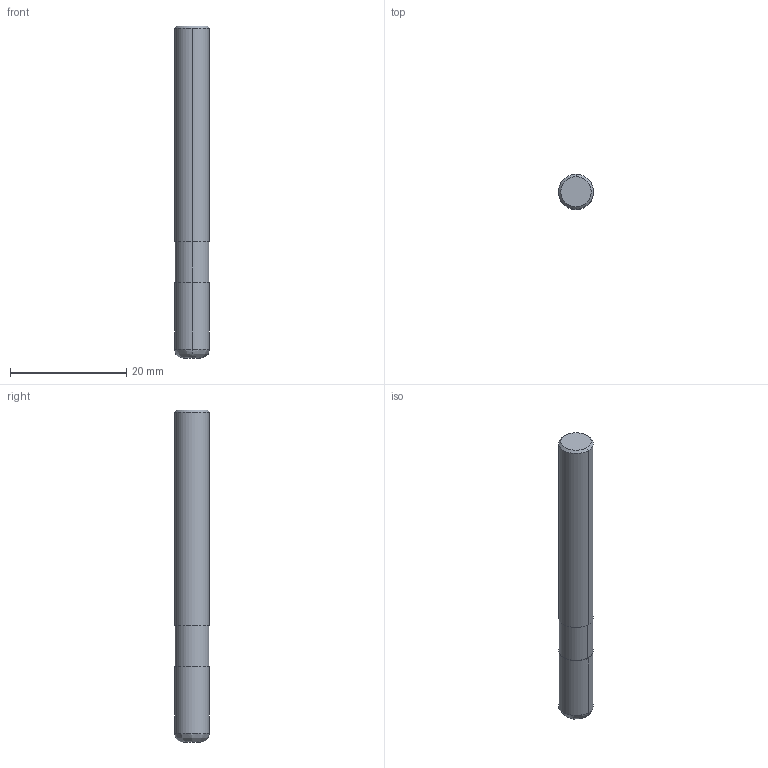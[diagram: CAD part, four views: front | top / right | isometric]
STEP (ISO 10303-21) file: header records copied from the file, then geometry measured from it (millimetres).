
FILE_DESCRIPTION((''),'2;1');
FILE_NAME('DIN4003_82_HEURO','2019-04-10T15:57:27',('automd'),(''),'CREO PARAMETRIC BY PTC INC, 2018400','CREO PARAMETRIC BY PTC INC, 2018400','');
FILE_SCHEMA(('AUTOMOTIVE_DESIGN { 1 0 10303 214 1 1 1 1 }'));
Length unit declared in the file: millimetre
Products named in the file (1): DIN4003_82_HEURO
Bounding box: 6 x 6 x 57 mm (x, y, z)
Volume: 1589.1 mm3; surface area: 1112.5 mm2
Topology: 1 solids, 1 shells, 14 faces, 29 edges, 20 vertices
Faces by surface type: bspline 14
Entity records: 971 total; most frequent: CARTESIAN_POINT 425, DIRECTION 79, ORIENTED_EDGE 52, AXIS2_PLACEMENT_3D 31, PRESENTATION_STYLE_ASSIGNMENT 27, STYLED_ITEM 27, EDGE_CURVE 26, CIRCLE 19
